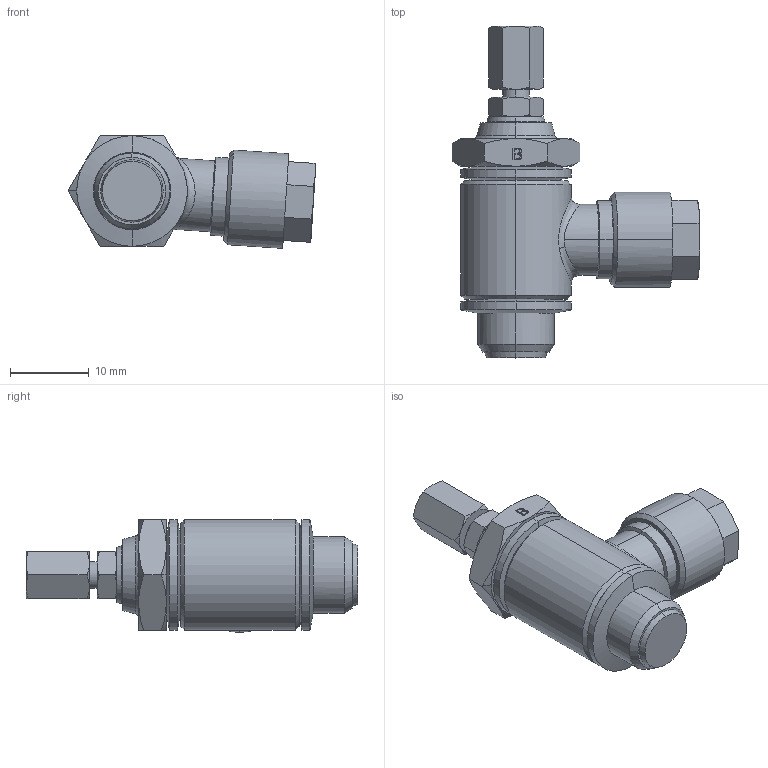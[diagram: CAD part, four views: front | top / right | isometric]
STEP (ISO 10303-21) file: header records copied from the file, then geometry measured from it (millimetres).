
FILE_DESCRIPTION (( 'STEP AP203' ), '1' );
FILE_NAME ('249886.STEP', '2016-08-10T08:59:49', ( '' ), ( '' ), 'SwSTEP 2.0', 'SolidWorks 2016', '' );
FILE_SCHEMA (( 'CONFIG_CONTROL_DESIGN' ));
Length unit declared in the file: millimetre
Products named in the file (1): 249886
Bounding box: 31.45 x 42.13 x 14.31 mm (x, y, z)
Volume: 5700.7 mm3; surface area: 3142.5 mm2
Topology: 1 solids, 1 shells, 193 faces, 459 edges, 282 vertices
Faces by surface type: cone 72, plane 67, cylinder 34, bspline 20
Entity records: 7362 total; most frequent: CARTESIAN_POINT 2969, ORIENTED_EDGE 918, DIRECTION 871, EDGE_CURVE 459, AXIS2_PLACEMENT_3D 360, VERTEX_POINT 282, EDGE_LOOP 219, FACE_OUTER_BOUND 193
